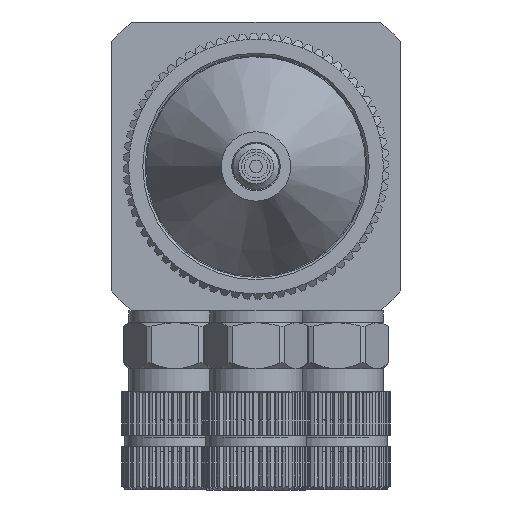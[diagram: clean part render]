
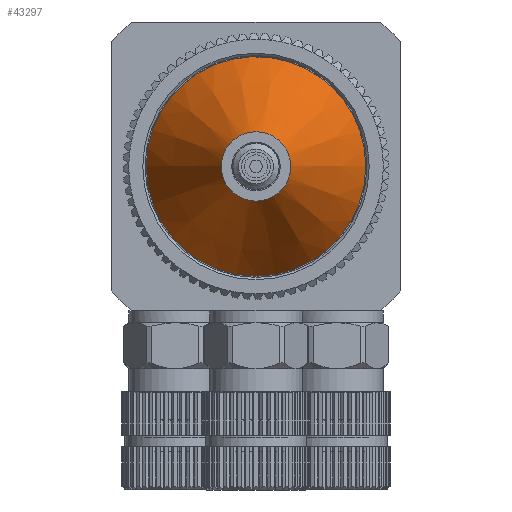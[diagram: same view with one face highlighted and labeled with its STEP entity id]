
A CAD part, front view. The second image highlights one B-rep face of the part: STEP entity #43297.
In plain terms, the highlighted conical face has half-angle 30 degrees and reference radius 9.5 mm.
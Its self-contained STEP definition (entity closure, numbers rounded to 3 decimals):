
#7094 = FACE_BOUND ( 'NONE', #33554, .T. ) ;
#9973 = CARTESIAN_POINT ( 'NONE',  ( 27., 218.258, 0. ) ) ;
#11597 = ORIENTED_EDGE ( 'NONE', *, *, #41398, .F. ) ;
#13566 = DIRECTION ( 'NONE',  ( 0., -1., 0. ) ) ;
#15315 = AXIS2_PLACEMENT_3D ( 'NONE', #19898, #42432, #37997 ) ;
#15954 = CARTESIAN_POINT ( 'NONE',  ( 27., 207., 0. ) ) ;
#16522 = DIRECTION ( 'NONE',  ( 0., -1., 0. ) ) ;
#19898 = CARTESIAN_POINT ( 'NONE',  ( 27., 218.258, 0. ) ) ;
#20831 = AXIS2_PLACEMENT_3D ( 'NONE', #15954, #16522, #20979 ) ;
#20979 = DIRECTION ( 'NONE',  ( -1., 0., 0. ) ) ;
#28998 = CARTESIAN_POINT ( 'NONE',  ( 29.721, 218.258, 9.102 ) ) ;
#29308 = VERTEX_POINT ( 'NONE', #28998 ) ;
#33275 = ORIENTED_EDGE ( 'NONE', *, *, #33698, .T. ) ;
#33554 = EDGE_LOOP ( 'NONE', ( #11597 ) ) ;
#33698 = EDGE_CURVE ( 'NONE', #29308, #29308, #46813, .T. ) ;
#35488 = VERTEX_POINT ( 'NONE', #48551 ) ;
#35975 = CIRCLE ( 'NONE', #20831, 3. ) ;
#37997 = DIRECTION ( 'NONE',  ( -1., 0., 0. ) ) ;
#41398 = EDGE_CURVE ( 'NONE', #35488, #35488, #35975, .T. ) ;
#42432 = DIRECTION ( 'NONE',  ( 0., 1., 0. ) ) ;
#43297 = ADVANCED_FACE ( 'NONE', ( #7094, #46581 ), #46595, .T. ) ;
#43388 = EDGE_LOOP ( 'NONE', ( #33275 ) ) ;
#46581 = FACE_OUTER_BOUND ( 'NONE', #43388, .T. ) ;
#46595 = CONICAL_SURFACE ( 'NONE', #15315, 9.5, 0.524 ) ;
#46813 = CIRCLE ( 'NONE', #57192, 9.5 ) ;
#48551 = CARTESIAN_POINT ( 'NONE',  ( 24., 207., 0. ) ) ;
#49736 = DIRECTION ( 'NONE',  ( 0.286, 0., 0.958 ) ) ;
#57192 = AXIS2_PLACEMENT_3D ( 'NONE', #9973, #13566, #49736 ) ;
